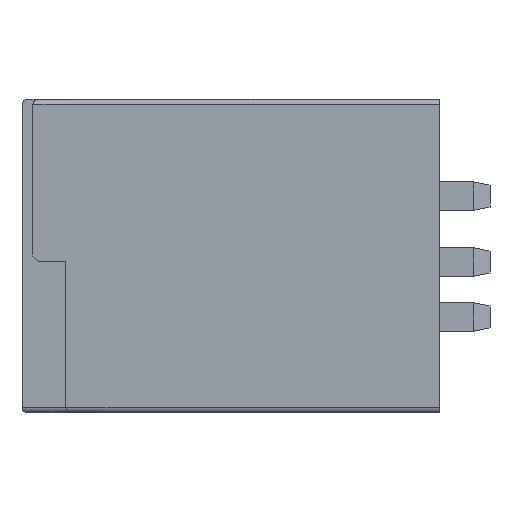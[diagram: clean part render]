
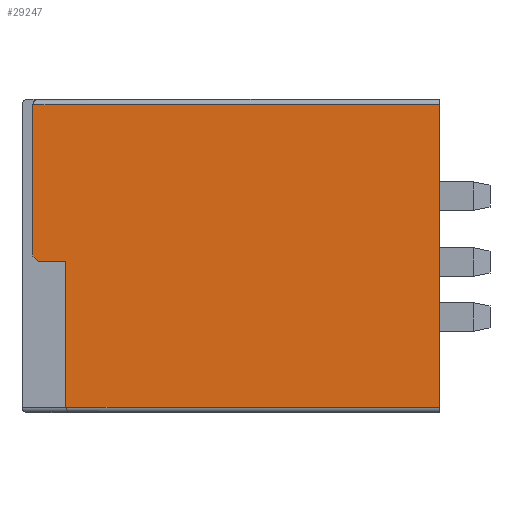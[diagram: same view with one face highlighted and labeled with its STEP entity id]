
A CAD part, left-side view. The second image highlights one B-rep face of the part: STEP entity #29247.
In plain terms, the highlighted planar face has unit normal (-1, 0, 0).
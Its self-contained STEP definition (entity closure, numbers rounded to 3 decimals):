
#750=DIRECTION('',(0.,0.,1.));
#751=VECTOR('',#750,13.25);
#752=CARTESIAN_POINT('',(13.75,38.6,-28.));
#753=LINE('',#752,#751);
#9315=DIRECTION('',(0.,-1.,0.));
#9316=VECTOR('',#9315,37.);
#9317=CARTESIAN_POINT('',(13.75,41.6,-0.5));
#9318=LINE('',#9317,#9316);
#9330=DIRECTION('',(0.,-0.707,-0.707));
#9331=VECTOR('',#9330,0.707);
#9332=CARTESIAN_POINT('',(13.75,41.6,-14.25));
#9333=LINE('',#9332,#9331);
#9334=DIRECTION('',(0.,0.,1.));
#9335=VECTOR('',#9334,27.5);
#9336=CARTESIAN_POINT('',(13.75,4.6,-28.));
#9337=LINE('',#9336,#9335);
#9342=DIRECTION('',(0.,1.,0.));
#9343=VECTOR('',#9342,2.5);
#9344=CARTESIAN_POINT('',(13.75,38.6,-14.75));
#9345=LINE('',#9344,#9343);
#9364=DIRECTION('',(0.,0.,1.));
#9365=VECTOR('',#9364,13.75);
#9366=CARTESIAN_POINT('',(13.75,41.6,-14.25));
#9367=LINE('',#9366,#9365);
#10851=DIRECTION('',(0.,1.,0.));
#10852=VECTOR('',#10851,34.);
#10853=CARTESIAN_POINT('',(13.75,4.6,-28.));
#10854=LINE('',#10853,#10852);
#14780=CARTESIAN_POINT('',(13.75,4.6,-28.));
#14781=VERTEX_POINT('',#14780);
#14782=CARTESIAN_POINT('',(13.75,4.6,-0.5));
#14783=VERTEX_POINT('',#14782);
#15092=CARTESIAN_POINT('',(13.75,41.6,-0.5));
#15093=VERTEX_POINT('',#15092);
#15094=CARTESIAN_POINT('',(13.75,41.6,-14.25));
#15095=CARTESIAN_POINT('',(13.75,41.1,-14.75));
#15096=VERTEX_POINT('',#15094);
#15097=VERTEX_POINT('',#15095);
#15098=CARTESIAN_POINT('',(13.75,38.6,-28.));
#15099=VERTEX_POINT('',#15098);
#15100=CARTESIAN_POINT('',(13.75,38.6,-14.75));
#15101=VERTEX_POINT('',#15100);
#29229=CARTESIAN_POINT('',(13.75,41.6,0.));
#29230=DIRECTION('',(-1.,0.,0.));
#29231=DIRECTION('',(0.,-1.,0.));
#29232=AXIS2_PLACEMENT_3D('',#29229,#29230,#29231);
#29233=PLANE('',#29232);
#29235=ORIENTED_EDGE('',*,*,#29234,.T.);
#29237=ORIENTED_EDGE('',*,*,#29236,.F.);
#29239=ORIENTED_EDGE('',*,*,#29238,.T.);
#29240=ORIENTED_EDGE('',*,*,#29222,.T.);
#29241=ORIENTED_EDGE('',*,*,#16930,.F.);
#29243=ORIENTED_EDGE('',*,*,#29242,.T.);
#29244=ORIENTED_EDGE('',*,*,#17164,.T.);
#29245=EDGE_LOOP('',(#29235,#29237,#29239,#29240,#29241,#29243,#29244));
#29246=FACE_OUTER_BOUND('',#29245,.F.);
#29247=ADVANCED_FACE('',(#29246),#29233,.T.);
#16930=EDGE_CURVE('',#14781,#14783,#9337,.T.);
#17164=EDGE_CURVE('',#15099,#15101,#753,.T.);
#29222=EDGE_CURVE('',#15093,#14783,#9318,.T.);
#29234=EDGE_CURVE('',#15101,#15097,#9345,.T.);
#29236=EDGE_CURVE('',#15096,#15097,#9333,.T.);
#29238=EDGE_CURVE('',#15096,#15093,#9367,.T.);
#29242=EDGE_CURVE('',#14781,#15099,#10854,.T.);
